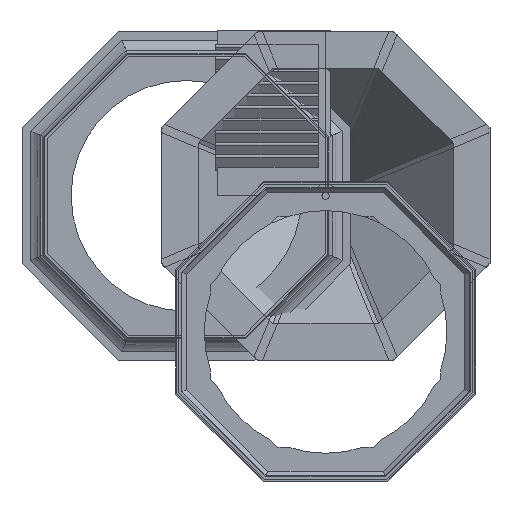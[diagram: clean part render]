
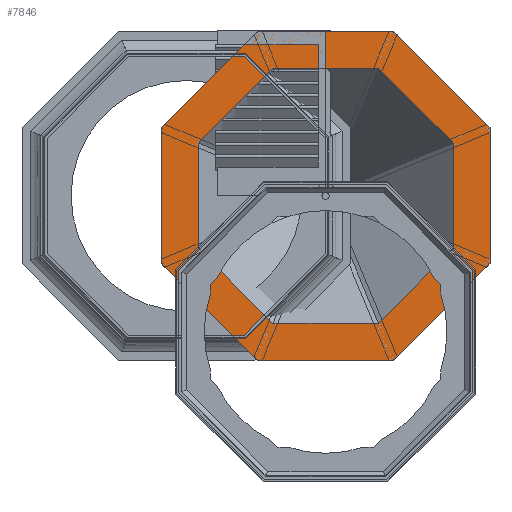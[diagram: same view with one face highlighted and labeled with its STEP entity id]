
A CAD part, front view. The second image highlights one B-rep face of the part: STEP entity #7846.
In plain terms, the highlighted planar face has unit normal (0, -1, 0).
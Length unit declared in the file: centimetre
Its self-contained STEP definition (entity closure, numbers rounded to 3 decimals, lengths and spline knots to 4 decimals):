
#3194=VERTEX_POINT('',#25507);
#3195=VERTEX_POINT('',#25509);
#3196=VERTEX_POINT('',#25513);
#3197=VERTEX_POINT('',#25517);
#3198=VERTEX_POINT('',#25521);
#3199=VERTEX_POINT('',#25525);
#3200=VERTEX_POINT('',#25527);
#3201=VERTEX_POINT('',#25531);
#3202=VERTEX_POINT('',#25533);
#3203=VERTEX_POINT('',#25537);
#3204=VERTEX_POINT('',#25541);
#3205=VERTEX_POINT('',#25545);
#3206=VERTEX_POINT('',#25551);
#3207=VERTEX_POINT('',#25555);
#3208=VERTEX_POINT('',#25559);
#3209=VERTEX_POINT('',#25563);
#4136=EDGE_CURVE('',#3194,#3195,#14156,.T.);
#4139=EDGE_CURVE('',#3196,#3194,#14159,.T.);
#4141=EDGE_CURVE('',#3197,#3196,#14161,.T.);
#4143=EDGE_CURVE('',#3198,#3197,#14163,.T.);
#4145=EDGE_CURVE('',#3200,#3199,#14164,.T.);
#4148=EDGE_CURVE('',#3201,#3202,#14166,.T.);
#4150=EDGE_CURVE('',#3203,#3200,#14168,.T.);
#4153=EDGE_CURVE('',#3204,#3201,#14170,.T.);
#4154=EDGE_CURVE('',#3205,#3203,#14171,.T.);
#4156=EDGE_CURVE('',#3195,#3204,#14172,.T.);
#4157=EDGE_CURVE('',#3206,#3205,#14173,.T.);
#4159=EDGE_CURVE('',#3207,#3206,#14174,.T.);
#4161=EDGE_CURVE('',#3208,#3207,#14175,.T.);
#4163=EDGE_CURVE('',#3209,#3208,#14176,.T.);
#4165=EDGE_CURVE('',#3202,#3198,#14177,.T.);
#4166=EDGE_CURVE('',#3199,#3209,#14178,.T.);
#5994=ORIENTED_EDGE('',*,*,#4165,.F.);
#5995=ORIENTED_EDGE('',*,*,#4148,.F.);
#5996=ORIENTED_EDGE('',*,*,#4153,.F.);
#5997=ORIENTED_EDGE('',*,*,#4156,.F.);
#5998=ORIENTED_EDGE('',*,*,#4136,.F.);
#5999=ORIENTED_EDGE('',*,*,#4139,.F.);
#6000=ORIENTED_EDGE('',*,*,#4141,.F.);
#6001=ORIENTED_EDGE('',*,*,#4143,.F.);
#6002=ORIENTED_EDGE('',*,*,#4163,.T.);
#6003=ORIENTED_EDGE('',*,*,#4161,.T.);
#6004=ORIENTED_EDGE('',*,*,#4159,.T.);
#6005=ORIENTED_EDGE('',*,*,#4157,.T.);
#6006=ORIENTED_EDGE('',*,*,#4154,.T.);
#6007=ORIENTED_EDGE('',*,*,#4150,.T.);
#6008=ORIENTED_EDGE('',*,*,#4145,.T.);
#6009=ORIENTED_EDGE('',*,*,#4166,.T.);
#6918=EDGE_LOOP('',(#5994,#5995,#5996,#5997,#5998,#5999,#6000,#6001));
#6919=EDGE_LOOP('',(#6002,#6003,#6004,#6005,#6006,#6007,#6008,#6009));
#7388=FACE_BOUND('',#6918,.T.);
#7389=FACE_BOUND('',#6919,.T.);
#7846=ADVANCED_FACE('',(#7388,#7389),#21064,.T.);
#14156=LINE('',#25508,#20277);
#14159=LINE('',#25514,#20280);
#14161=LINE('',#25518,#20282);
#14163=LINE('',#25522,#20284);
#14164=LINE('',#25526,#20286);
#14166=LINE('',#25532,#20288);
#14168=LINE('',#25536,#20291);
#14170=LINE('',#25542,#20293);
#14171=LINE('',#25544,#20295);
#14172=LINE('',#25548,#20296);
#14173=LINE('',#25550,#20298);
#14174=LINE('',#25554,#20300);
#14175=LINE('',#25558,#20302);
#14176=LINE('',#25562,#20304);
#14177=LINE('',#25566,#20305);
#14178=LINE('',#25567,#20306);
#18919=AXIS2_PLACEMENT_3D('',#25565,#28513,$);
#20277=VECTOR('',#28449,1.);
#20280=VECTOR('',#28453,1.);
#20282=VECTOR('',#28456,1.);
#20284=VECTOR('',#28459,1.);
#20286=VECTOR('',#28465,1.);
#20288=VECTOR('',#28470,1.);
#20291=VECTOR('',#28475,1.);
#20293=VECTOR('',#28480,1.);
#20295=VECTOR('',#28484,1.);
#20296=VECTOR('',#28488,1.);
#20298=VECTOR('',#28492,1.);
#20300=VECTOR('',#28498,1.);
#20302=VECTOR('',#28504,1.);
#20304=VECTOR('',#28510,1.);
#20305=VECTOR('',#28514,1.);
#20306=VECTOR('',#28515,1.);
#21064=PLANE('',#18919);
#25507=CARTESIAN_POINT('',(-44.9582,0.,18.6223));
#25508=CARTESIAN_POINT('',(-44.9582,0.,18.6223));
#25509=CARTESIAN_POINT('',(-44.9582,0.,-18.6223));
#25513=CARTESIAN_POINT('',(-18.6223,0.,44.9582));
#25514=CARTESIAN_POINT('',(-18.6223,0.,44.9582));
#25517=CARTESIAN_POINT('',(18.6223,0.,44.9582));
#25518=CARTESIAN_POINT('',(18.6223,0.,44.9582));
#25521=CARTESIAN_POINT('',(44.9582,0.,18.6223));
#25522=CARTESIAN_POINT('',(44.9582,0.,18.6223));
#25525=CARTESIAN_POINT('',(57.9436,0.,-24.001));
#25526=CARTESIAN_POINT('',(24.001,0.,-57.9436));
#25527=CARTESIAN_POINT('',(24.001,0.,-57.9436));
#25531=CARTESIAN_POINT('',(18.6223,0.,-44.9582));
#25532=CARTESIAN_POINT('',(18.6223,0.,-44.9582));
#25533=CARTESIAN_POINT('',(44.9582,0.,-18.6223));
#25536=CARTESIAN_POINT('',(-24.001,0.,-57.9436));
#25537=CARTESIAN_POINT('',(-24.001,0.,-57.9436));
#25541=CARTESIAN_POINT('',(-18.6223,0.,-44.9582));
#25542=CARTESIAN_POINT('',(-18.6223,0.,-44.9582));
#25544=CARTESIAN_POINT('',(-57.9436,0.,-24.001));
#25545=CARTESIAN_POINT('',(-57.9436,0.,-24.001));
#25548=CARTESIAN_POINT('',(-44.9582,0.,-18.6223));
#25550=CARTESIAN_POINT('',(-57.9436,0.,24.001));
#25551=CARTESIAN_POINT('',(-57.9436,0.,24.001));
#25554=CARTESIAN_POINT('',(-24.001,0.,57.9436));
#25555=CARTESIAN_POINT('',(-24.001,0.,57.9436));
#25558=CARTESIAN_POINT('',(24.001,0.,57.9436));
#25559=CARTESIAN_POINT('',(24.001,0.,57.9436));
#25562=CARTESIAN_POINT('',(57.9436,0.,24.001));
#25563=CARTESIAN_POINT('',(57.9436,0.,24.001));
#25565=CARTESIAN_POINT('',(57.9436,0.,24.001));
#25566=CARTESIAN_POINT('',(44.9582,0.,-18.6223));
#25567=CARTESIAN_POINT('',(57.9436,0.,-24.001));
#28449=DIRECTION('',(0.,0.,-1.));
#28453=DIRECTION('',(-0.707,0.,-0.707));
#28456=DIRECTION('',(-1.,0.,0.));
#28459=DIRECTION('',(-0.707,0.,0.707));
#28465=DIRECTION('',(0.707,0.,0.707));
#28470=DIRECTION('',(0.707,0.,0.707));
#28475=DIRECTION('',(1.,0.,0.));
#28480=DIRECTION('',(1.,0.,0.));
#28484=DIRECTION('',(0.707,0.,-0.707));
#28488=DIRECTION('',(0.707,0.,-0.707));
#28492=DIRECTION('',(0.,0.,-1.));
#28498=DIRECTION('',(-0.707,0.,-0.707));
#28504=DIRECTION('',(-1.,0.,0.));
#28510=DIRECTION('',(-0.707,0.,0.707));
#28513=DIRECTION('',(0.,-1.,0.));
#28514=DIRECTION('',(0.,0.,1.));
#28515=DIRECTION('',(0.,0.,1.));
